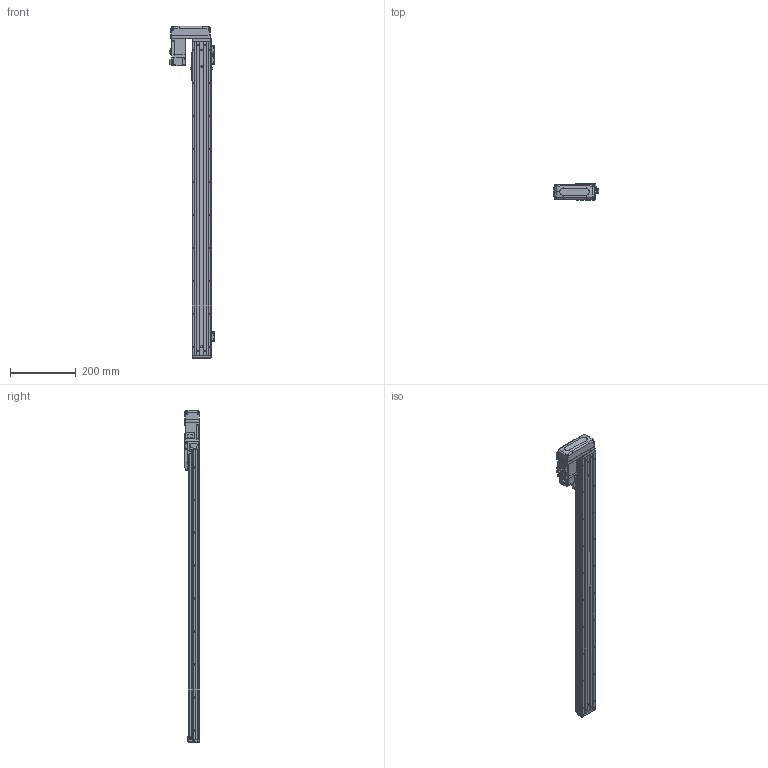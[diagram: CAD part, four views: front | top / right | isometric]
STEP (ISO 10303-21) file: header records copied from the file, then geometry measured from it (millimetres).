
FILE_DESCRIPTION (( 'STEP AP203' ), '1' );
FILE_NAME ('CTHA50-800-BR-M10-C4L.step', '2022-03-19T06:08:28', ( '微软用户' ), ( '微软中国' ), 'SwSTEP 2.0', 'SolidWorks 2020', '' );
FILE_SCHEMA (( 'CONFIG_CONTROL_DESIGN' ));
Length unit declared in the file: millimetre
Products named in the file (20): HG-KR13（三菱）; GBT 70.1-M3×15; KTHA50-005; GBT77-2000 M3×3; CTHA50-002; CTHA50-800-BR-M10-C4L; GB¨uT 70.2-M3¡Á6_M3¡Á6; GBT 70.1-M3℅6; CTHA50-030; CTHA60-017; CTHA50-031; GBT 70.1-M4×12; GBT 70.3-M3℅6; CTHA60-016; CTHA50-015-2_CTHA60-015-2; KTHA50-001_950; CTHA60-021; CTHA60-033; KTHA50-004; EE_SX911P_R
Assembly tree (60 placements, depth 2):
  CTHA50-800-BR-M10-C4L
    KTHA50-001_950
    KTHA50-004
    KTHA50-005
    GB¨uT 70.2-M3¡Á6_M3¡Á6  x10
    EE_SX911P_R  x3
    GBT77-2000 M3×3  x6
    GBT 70.1-M3℅6  x6
    CTHA60-017  x3
    GBT 70.1-M4×12  x10
    CTHA60-016  x2
    CTHA60-021  x2
    HG-KR13（三菱）
    CTHA50-002
    CTHA50-030  x2
    CTHA50-031
    GBT 70.3-M3℅6  x4
    CTHA50-015-2_CTHA60-015-2
    CTHA60-033
    GBT 70.1-M3×15  x4
Bounding box: 139.12 x 48 x 1007 mm (x, y, z)
Volume: 1819993 mm3; surface area: 461002 mm2
Topology: 62 solids, 62 shells, 2593 faces, 6191 edges, 3798 vertices
Faces by surface type: plane 1470, cylinder 606, cone 359, torus 108, bspline 26, sphere 24
Entity records: 45269 total; most frequent: CARTESIAN_POINT 8331, DIRECTION 7085, ORIENTED_EDGE 6890, EDGE_CURVE 3445, VECTOR 2421, LINE 2421, AXIS2_PLACEMENT_3D 2332, VERTEX_POINT 2172
